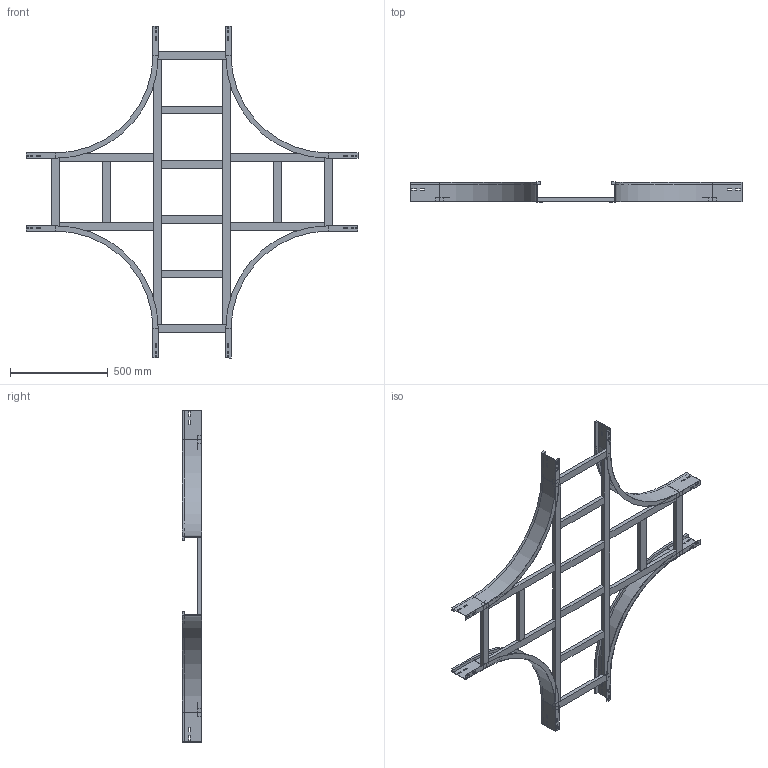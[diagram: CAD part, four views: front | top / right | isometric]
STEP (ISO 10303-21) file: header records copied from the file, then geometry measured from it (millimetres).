
FILE_DESCRIPTION (( 'STEP AP214' ), '1' );
FILE_NAME ('17B5D400.step', '2025-02-21T15:54:17', ( '' ), ( '' ), 'SwSTEP 2.0', 'SolidWorks 2023', '' );
FILE_SCHEMA (( 'AUTOMOTIVE_DESIGN' ));
Length unit declared in the file: millimetre
Products named in the file (7): TRAVERSINO_VERT_R500; TRAVERSINO_COPPIA_400; TRAVERSINO_400; TRAVERSINO_LONG._R500+400; 17B5D400; LONGH.INTERNO 90°_H100_R500; TRAVERSINO_INTERMEDIO_R500+400
Assembly tree (20 placements, depth 2):
  17B5D400
    LONGH.INTERNO 90°_H100_R500  x4
    TRAVERSINO_400  x4
    TRAVERSINO_LONG._R500+400  x2
    TRAVERSINO_INTERMEDIO_R500+400  x4
    TRAVERSINO_VERT_R500  x4
    TRAVERSINO_COPPIA_400  x2
Bounding box: 1700 x 100 x 1700 mm (x, y, z)
Volume: 8504203.6 mm3; surface area: 2256895.7 mm2
Topology: 20 solids, 20 shells, 328 faces, 800 edges, 512 vertices
Faces by surface type: plane 312, cylinder 16
Entity records: 2860 total; most frequent: CARTESIAN_POINT 459, DIRECTION 442, ORIENTED_EDGE 424, EDGE_CURVE 212, VECTOR 204, LINE 204, VERTEX_POINT 136, AXIS2_PLACEMENT_3D 119
